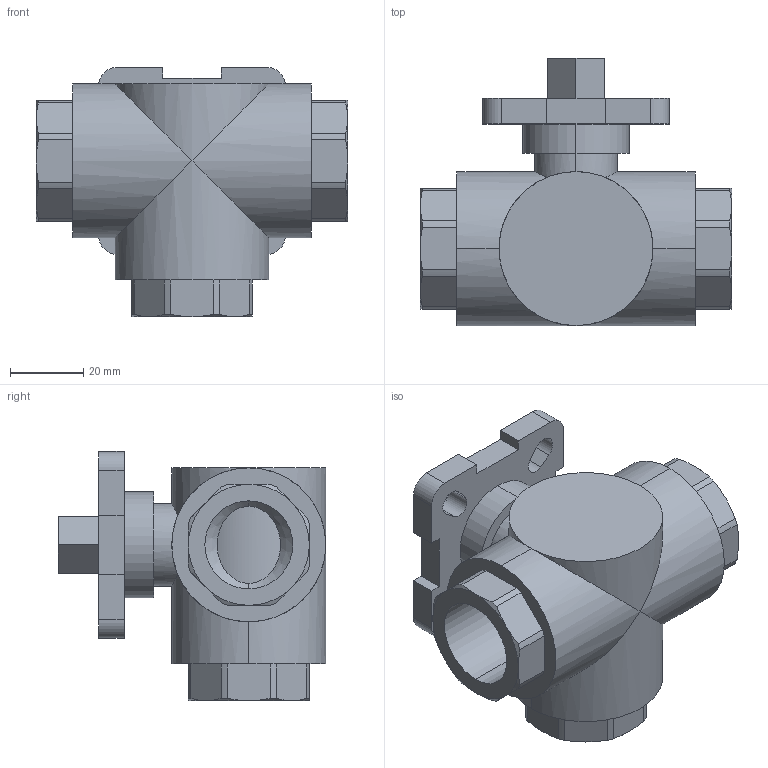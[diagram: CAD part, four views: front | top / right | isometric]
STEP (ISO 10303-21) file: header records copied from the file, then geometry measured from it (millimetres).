
FILE_DESCRIPTION (( 'STEP AP203' ), '1' );
FILE_NAME ('04.622I0200FVPB0.STEP', '2018-10-05T12:48:20', ( '' ), ( '' ), 'SwSTEP 2.0', 'SolidWorks 2014', '' );
FILE_SCHEMA (( 'CONFIG_CONTROL_DESIGN' ));
Length unit declared in the file: millimetre
Products named in the file (1): 04.622I0200FVPB0
Bounding box: 85 x 73 x 68 mm (x, y, z)
Volume: 136043 mm3; surface area: 29492 mm2
Topology: 1 solids, 1 shells, 159 faces, 405 edges, 257 vertices
Faces by surface type: plane 67, cylinder 62, cone 30
Entity records: 5374 total; most frequent: CARTESIAN_POINT 1470, ORIENTED_EDGE 810, DIRECTION 787, EDGE_CURVE 405, AXIS2_PLACEMENT_3D 290, VERTEX_POINT 257, VECTOR 207, LINE 207
